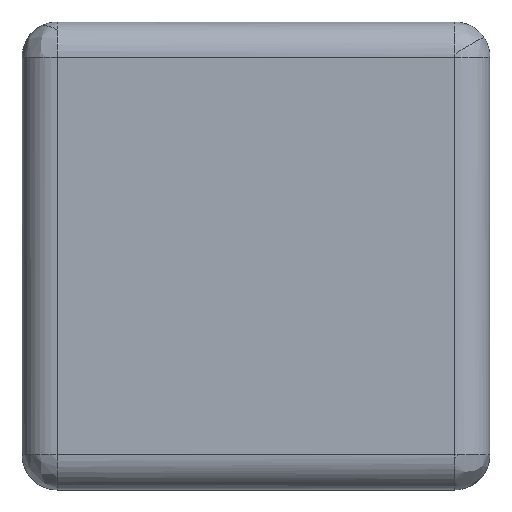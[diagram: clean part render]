
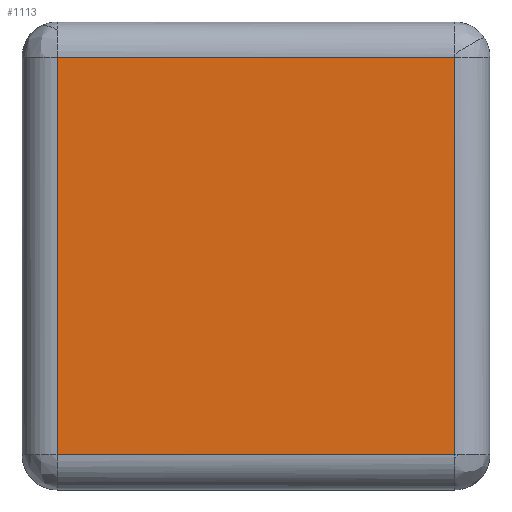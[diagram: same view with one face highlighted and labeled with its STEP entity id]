
A CAD part, top view. The second image highlights one B-rep face of the part: STEP entity #1113.
In plain terms, the highlighted planar face has unit normal (0, 0, 1).
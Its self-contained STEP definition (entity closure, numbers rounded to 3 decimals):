
#15 = CARTESIAN_POINT ( 'NONE',  ( 10., 10., 2.5 ) ) ;
#22 = EDGE_CURVE ( 'NONE', #652, #131, #215, .T. ) ;
#53 = CARTESIAN_POINT ( 'NONE',  ( 1.5, 18.5, 2.5 ) ) ;
#65 = EDGE_CURVE ( 'NONE', #1397, #1186, #1381, .T. ) ;
#71 = CARTESIAN_POINT ( 'NONE',  ( 18.5, 0., 2.5 ) ) ;
#75 = CARTESIAN_POINT ( 'NONE',  ( 0., 1.5, 2.5 ) ) ;
#99 = CARTESIAN_POINT ( 'NONE',  ( 0., 18.5, 2.5 ) ) ;
#131 = VERTEX_POINT ( 'NONE', #53 ) ;
#199 = CARTESIAN_POINT ( 'NONE',  ( 1.5, 0., 2.5 ) ) ;
#215 = LINE ( 'NONE', #99, #513 ) ;
#280 = ORIENTED_EDGE ( 'NONE', *, *, #22, .T. ) ;
#319 = CARTESIAN_POINT ( 'NONE',  ( 18.5, 18.5, 2.5 ) ) ;
#326 = ORIENTED_EDGE ( 'NONE', *, *, #703, .T. ) ;
#334 = CARTESIAN_POINT ( 'NONE',  ( 1.5, 1.5, 2.5 ) ) ;
#396 = DIRECTION ( 'NONE',  ( 1., 0., 0. ) ) ;
#461 = DIRECTION ( 'NONE',  ( 0., 0., 1. ) ) ;
#485 = CARTESIAN_POINT ( 'NONE',  ( 18.5, 1.5, 2.5 ) ) ;
#513 = VECTOR ( 'NONE', #1136, 1000. ) ;
#532 = ORIENTED_EDGE ( 'NONE', *, *, #65, .T. ) ;
#569 = AXIS2_PLACEMENT_3D ( 'NONE', #15, #461, #1004 ) ;
#652 = VERTEX_POINT ( 'NONE', #319 ) ;
#655 = ORIENTED_EDGE ( 'NONE', *, *, #919, .T. ) ;
#703 = EDGE_CURVE ( 'NONE', #131, #1397, #1243, .T. ) ;
#750 = DIRECTION ( 'NONE',  ( 0., -1., 0. ) ) ;
#772 = PLANE ( 'NONE',  #569 ) ;
#855 = DIRECTION ( 'NONE',  ( 0., 1., 0. ) ) ;
#919 = EDGE_CURVE ( 'NONE', #1186, #652, #1179, .T. ) ;
#951 = EDGE_LOOP ( 'NONE', ( #280, #326, #532, #655 ) ) ;
#1004 = DIRECTION ( 'NONE',  ( 1., 0., 0. ) ) ;
#1038 = VECTOR ( 'NONE', #396, 1000. ) ;
#1113 = ADVANCED_FACE ( 'NONE', ( #1218 ), #772, .T. ) ;
#1136 = DIRECTION ( 'NONE',  ( -1., 0., 0. ) ) ;
#1179 = LINE ( 'NONE', #71, #1344 ) ;
#1186 = VERTEX_POINT ( 'NONE', #485 ) ;
#1218 = FACE_OUTER_BOUND ( 'NONE', #951, .T. ) ;
#1243 = LINE ( 'NONE', #199, #1384 ) ;
#1344 = VECTOR ( 'NONE', #855, 1000. ) ;
#1381 = LINE ( 'NONE', #75, #1038 ) ;
#1384 = VECTOR ( 'NONE', #750, 1000. ) ;
#1397 = VERTEX_POINT ( 'NONE', #334 ) ;
